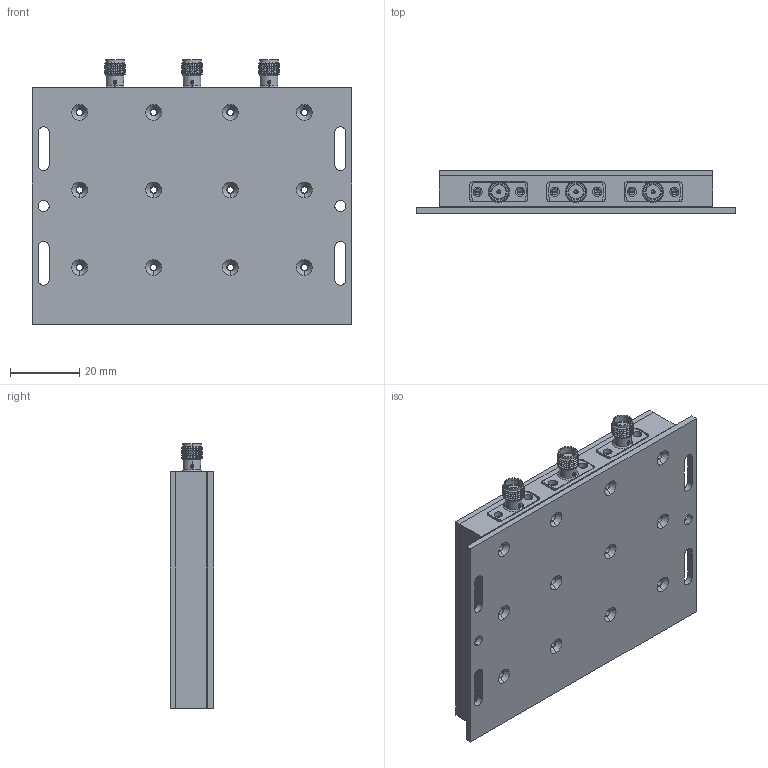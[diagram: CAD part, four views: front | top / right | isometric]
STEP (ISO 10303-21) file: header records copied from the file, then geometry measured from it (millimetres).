
FILE_DESCRIPTION (( 'STEP AP214' ), '1' );
FILE_NAME ('5009a Assembly - with Connectors.STEP', '2023-05-26T01:53:21', ( '' ), ( '' ), 'SwSTEP 2.0', 'SolidWorks 2020', '' );
FILE_SCHEMA (( 'AUTOMOTIVE_DESIGN' ));
Length unit declared in the file: millimetre
Products named in the file (5): 5009a Assembly - with Connectors; 5009 Cover R4; 5009 Base R4; 142-1701-201; 5009 Housing R4
Assembly tree (6 placements, depth 2):
  5009a Assembly - with Connectors
    5009 Base R4
    5009 Housing R4
    5009 Cover R4
    142-1701-201  x3
Bounding box: 92.08 x 12.52 x 76.3 mm (x, y, z)
Volume: 38103.1 mm3; surface area: 39992.9 mm2
Topology: 6 solids, 6 shells, 659 faces, 1790 edges, 1144 vertices
Faces by surface type: cylinder 289, plane 181, cone 132, bspline 57
Entity records: 22031 total; most frequent: CARTESIAN_POINT 8702, DIRECTION 2801, ORIENTED_EDGE 2740, EDGE_CURVE 1370, AXIS2_PLACEMENT_3D 1041, VERTEX_POINT 888, LINE 719, VECTOR 719
